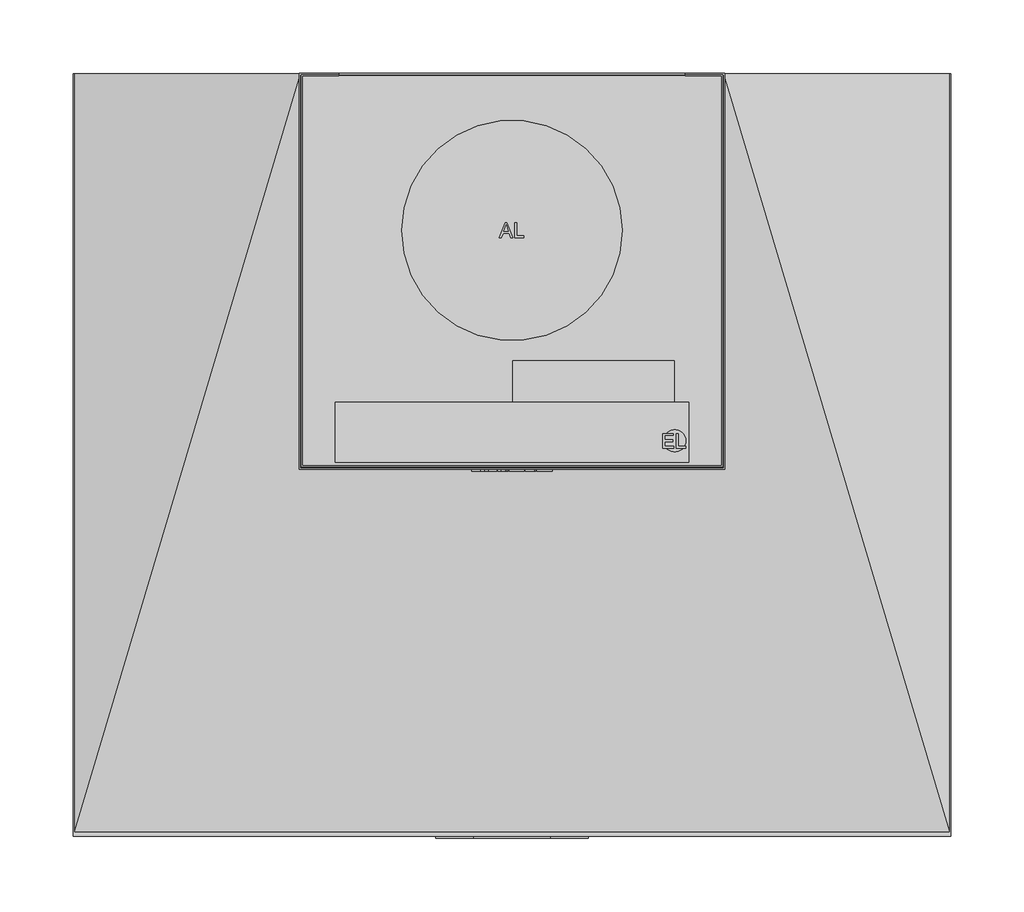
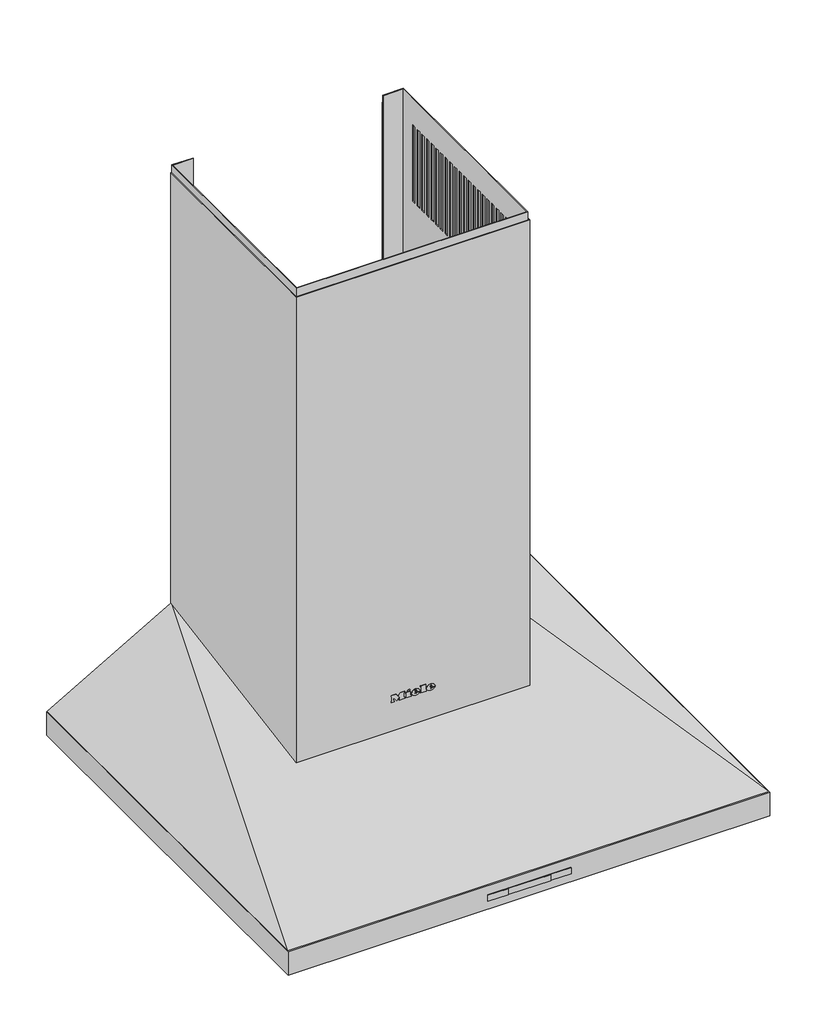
# Not in any storey: 1 proxy.
"""IFC4 building model written with IfcOpenShell, lengths in millimetres."""

from ifc_helpers import new_model, si_unit, origin, place, context, project, spatial, transform, mapped, element, save
from components import specialty_equipment_92b99cc2

model = new_model("IFC4")

# Units and contexts
model_context = context("Model", 3, world=origin())
ifc_project = project(units=[si_unit("LENGTHUNIT", "METRE", prefix="MILLI")], contexts=[model_context])

# Site, building
site = spatial("IfcSite", under=ifc_project)
building = spatial("IfcBuilding", under=site)

# Proxy
placement = place(None, origin())
specialty_equipment_shape = specialty_equipment_92b99cc2(model_context)
element("IfcBuildingElementProxy", 1, Name="10558640_TR_DA396-7_EDST : 28396750_TR_10558640_DA396-7_EDST", ObjectType="10558640_TR_DA396-7_EDST : 28396750_TR_10558640_DA396-7_EDST", at=placement, inside=building, context=model_context, shape_type="MappedRepresentation", body=[
    mapped(specialty_equipment_shape, transform((0.0, 0.0, 0.0), x_axis=(1.0, 0.0, 0.0), y_axis=(0.0, 1.0, 0.0), z_axis=(0.0, 0.0, 1.0))),
])

save(model, "model.ifc")
